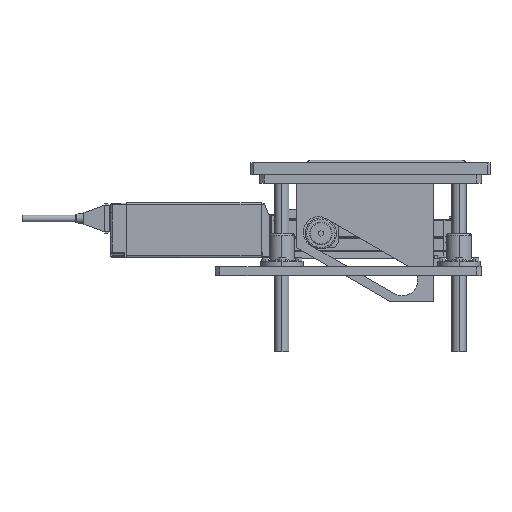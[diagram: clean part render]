
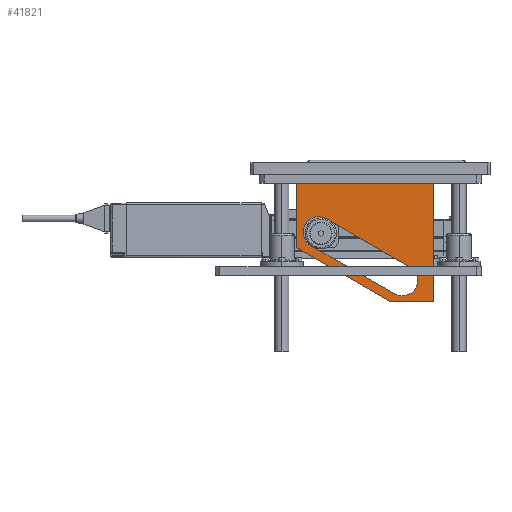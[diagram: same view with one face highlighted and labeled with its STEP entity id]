
A CAD part, top view. The second image highlights one B-rep face of the part: STEP entity #41821.
In plain terms, the highlighted planar face has unit normal (0, 0, 1).
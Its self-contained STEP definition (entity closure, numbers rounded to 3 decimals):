
#383 = CARTESIAN_POINT ( 'NONE',  ( -80., -5.878, 16. ) ) ;
#1135 = DIRECTION ( 'NONE',  ( 0., 0., 1. ) ) ;
#2137 = CARTESIAN_POINT ( 'NONE',  ( -46.25, 26.598, 16. ) ) ;
#2404 = CARTESIAN_POINT ( 'NONE',  ( -75., 66.5, 16. ) ) ;
#3064 = EDGE_CURVE ( 'NONE', #42295, #5405, #19646, .T. ) ;
#3879 = CARTESIAN_POINT ( 'NONE',  ( -75., -66.5, 16. ) ) ;
#5405 = VERTEX_POINT ( 'NONE', #5710 ) ;
#5682 = PLANE ( 'NONE',  #16655 ) ;
#5710 = CARTESIAN_POINT ( 'NONE',  ( 48.047, -27.845, 16. ) ) ;
#7011 = DIRECTION ( 'NONE',  ( 0., 0., 1. ) ) ;
#7180 = VECTOR ( 'NONE', #24008, 1000. ) ;
#7643 = AXIS2_PLACEMENT_3D ( 'NONE', #7957, #44009, #40173 ) ;
#7726 = EDGE_LOOP ( 'NONE', ( #19505, #46332, #45492, #34518, #7794 ) ) ;
#7794 = ORIENTED_EDGE ( 'NONE', *, *, #27014, .T. ) ;
#7957 = CARTESIAN_POINT ( 'NONE',  ( -55., 11.442, 16. ) ) ;
#8351 = VECTOR ( 'NONE', #19224, 1000. ) ;
#8639 = VECTOR ( 'NONE', #42482, 1000. ) ;
#8816 = CARTESIAN_POINT ( 'NONE',  ( -46.25, 26.598, 16. ) ) ;
#10986 = ORIENTED_EDGE ( 'NONE', *, *, #44302, .F. ) ;
#12711 = DIRECTION ( 'NONE',  ( -0.866, 0.5, 0. ) ) ;
#13240 = ORIENTED_EDGE ( 'NONE', *, *, #26643, .F. ) ;
#14064 = EDGE_LOOP ( 'NONE', ( #10986, #44620, #22597, #13240, #37111 ) ) ;
#15262 = EDGE_CURVE ( 'NONE', #32388, #35164, #40870, .T. ) ;
#15582 = CARTESIAN_POINT ( 'NONE',  ( 75., 66.5, 16. ) ) ;
#15683 = VECTOR ( 'NONE', #12711, 1000. ) ;
#16655 = AXIS2_PLACEMENT_3D ( 'NONE', #22999, #1135, #45113 ) ;
#16787 = CARTESIAN_POINT ( 'NONE',  ( -63.75, -3.713, 16. ) ) ;
#19224 = DIRECTION ( 'NONE',  ( 1., 0., 0. ) ) ;
#19505 = ORIENTED_EDGE ( 'NONE', *, *, #35399, .F. ) ;
#19646 = CIRCLE ( 'NONE', #22728, 17.5 ) ;
#19936 = DIRECTION ( 'NONE',  ( 0.866, -0.5, 0. ) ) ;
#20215 = CARTESIAN_POINT ( 'NONE',  ( -80., 66.5, 16. ) ) ;
#20747 = CARTESIAN_POINT ( 'NONE',  ( -80., -5.878, 16. ) ) ;
#21558 = CARTESIAN_POINT ( 'NONE',  ( 25., -66.5, 16. ) ) ;
#21647 = DIRECTION ( 'NONE',  ( 1., 0., 0. ) ) ;
#21787 = DIRECTION ( 'NONE',  ( 0., 0., 1. ) ) ;
#22015 = VECTOR ( 'NONE', #32614, 1000. ) ;
#22502 = DIRECTION ( 'NONE',  ( 1., 0., 0. ) ) ;
#22597 = ORIENTED_EDGE ( 'NONE', *, *, #3064, .F. ) ;
#22728 = AXIS2_PLACEMENT_3D ( 'NONE', #29742, #21787, #22502 ) ;
#22886 = EDGE_CURVE ( 'NONE', #5405, #41705, #23986, .T. ) ;
#22957 = EDGE_CURVE ( 'NONE', #37161, #39973, #47224, .T. ) ;
#22999 = CARTESIAN_POINT ( 'NONE',  ( 0., 0., 16. ) ) ;
#23747 = LINE ( 'NONE', #34596, #8639 ) ;
#23986 = LINE ( 'NONE', #2137, #15683 ) ;
#24008 = DIRECTION ( 'NONE',  ( -1., 0., 0. ) ) ;
#26643 = EDGE_CURVE ( 'NONE', #39973, #42295, #28139, .T. ) ;
#27014 = EDGE_CURVE ( 'NONE', #33345, #34617, #33320, .T. ) ;
#27754 = VECTOR ( 'NONE', #43169, 1000. ) ;
#28139 = CIRCLE ( 'NONE', #32751, 17.5 ) ;
#28606 = CARTESIAN_POINT ( 'NONE',  ( 30.547, -58.155, 16. ) ) ;
#28752 = LINE ( 'NONE', #29230, #27754 ) ;
#29230 = CARTESIAN_POINT ( 'NONE',  ( -75., -8.765, 16. ) ) ;
#29518 = VECTOR ( 'NONE', #19936, 1000. ) ;
#29742 = CARTESIAN_POINT ( 'NONE',  ( 39.297, -43., 16. ) ) ;
#32388 = VERTEX_POINT ( 'NONE', #21558 ) ;
#32614 = DIRECTION ( 'NONE',  ( 0., -1., 0. ) ) ;
#32751 = AXIS2_PLACEMENT_3D ( 'NONE', #39940, #7011, #21647 ) ;
#32971 = CIRCLE ( 'NONE', #7643, 17.5 ) ;
#33320 = LINE ( 'NONE', #383, #22015 ) ;
#33345 = VERTEX_POINT ( 'NONE', #20215 ) ;
#34518 = ORIENTED_EDGE ( 'NONE', *, *, #36932, .T. ) ;
#34596 = CARTESIAN_POINT ( 'NONE',  ( 75., 66.5, 16. ) ) ;
#34617 = VERTEX_POINT ( 'NONE', #20747 ) ;
#35164 = VERTEX_POINT ( 'NONE', #41035 ) ;
#35399 = EDGE_CURVE ( 'NONE', #32388, #34617, #28752, .T. ) ;
#36932 = EDGE_CURVE ( 'NONE', #44789, #33345, #42276, .T. ) ;
#37111 = ORIENTED_EDGE ( 'NONE', *, *, #22957, .F. ) ;
#37161 = VERTEX_POINT ( 'NONE', #40585 ) ;
#38612 = FACE_BOUND ( 'NONE', #14064, .T. ) ;
#39940 = CARTESIAN_POINT ( 'NONE',  ( 39.297, -43., 16. ) ) ;
#39973 = VERTEX_POINT ( 'NONE', #28606 ) ;
#40173 = DIRECTION ( 'NONE',  ( 1., 0., 0. ) ) ;
#40585 = CARTESIAN_POINT ( 'NONE',  ( -63.75, -3.713, 16. ) ) ;
#40870 = LINE ( 'NONE', #3879, #8351 ) ;
#41035 = CARTESIAN_POINT ( 'NONE',  ( 75., -66.5, 16. ) ) ;
#41264 = FACE_OUTER_BOUND ( 'NONE', #7726, .T. ) ;
#41705 = VERTEX_POINT ( 'NONE', #8816 ) ;
#41821 = ADVANCED_FACE ( 'NONE', ( #41264, #38612 ), #5682, .T. ) ;
#42276 = LINE ( 'NONE', #2404, #7180 ) ;
#42295 = VERTEX_POINT ( 'NONE', #42379 ) ;
#42379 = CARTESIAN_POINT ( 'NONE',  ( 56.797, -43., 16. ) ) ;
#42482 = DIRECTION ( 'NONE',  ( 0., 1., 0. ) ) ;
#43169 = DIRECTION ( 'NONE',  ( -0.866, 0.5, 0. ) ) ;
#44009 = DIRECTION ( 'NONE',  ( 0., 0., 1. ) ) ;
#44302 = EDGE_CURVE ( 'NONE', #41705, #37161, #32971, .T. ) ;
#44620 = ORIENTED_EDGE ( 'NONE', *, *, #22886, .F. ) ;
#44789 = VERTEX_POINT ( 'NONE', #15582 ) ;
#45113 = DIRECTION ( 'NONE',  ( 1., 0., 0. ) ) ;
#45492 = ORIENTED_EDGE ( 'NONE', *, *, #47296, .T. ) ;
#46332 = ORIENTED_EDGE ( 'NONE', *, *, #15262, .T. ) ;
#47224 = LINE ( 'NONE', #16787, #29518 ) ;
#47296 = EDGE_CURVE ( 'NONE', #35164, #44789, #23747, .T. ) ;
